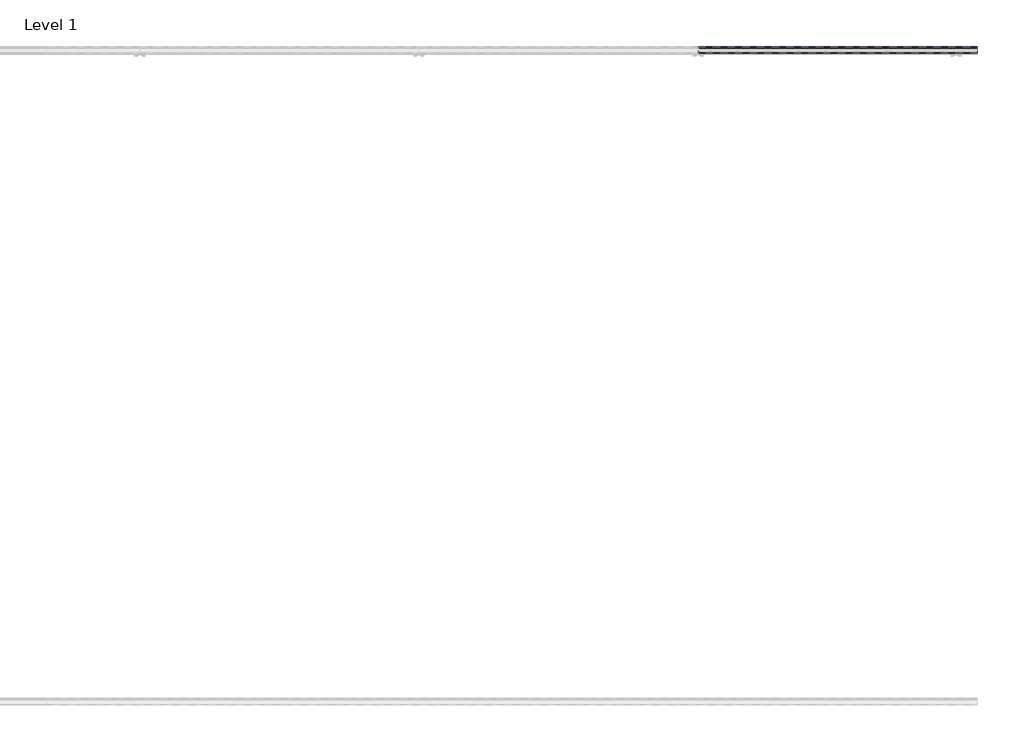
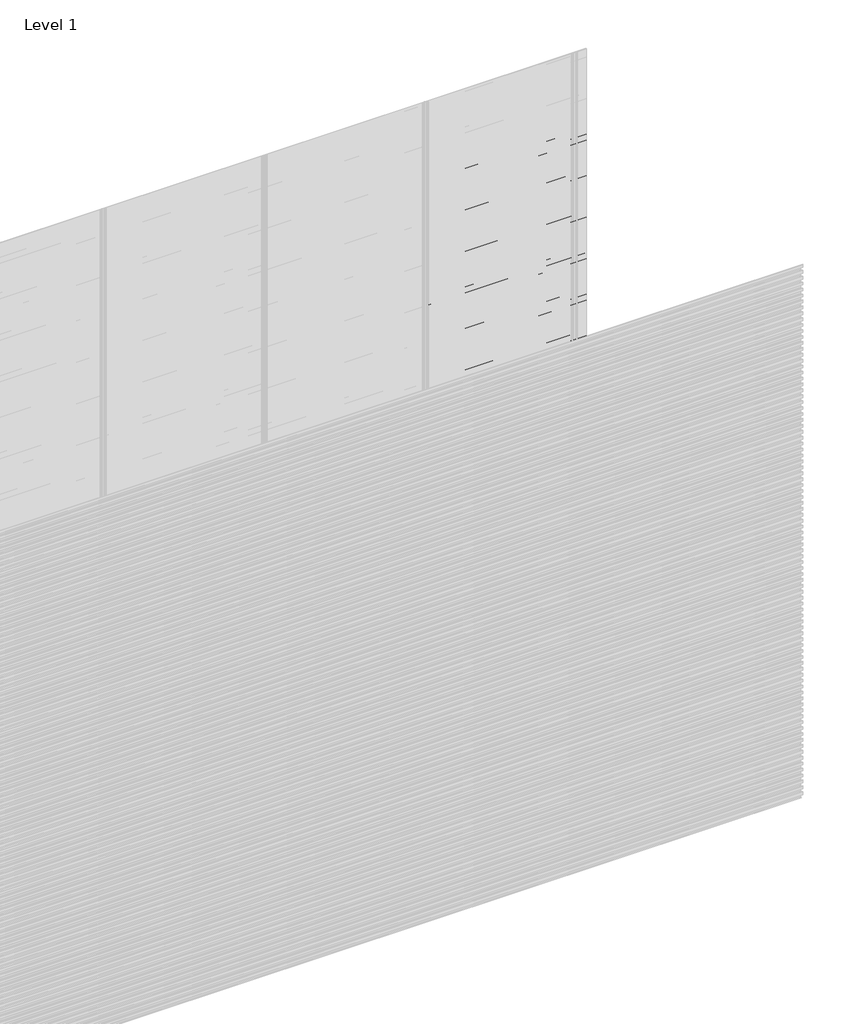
# One storey, part 96 of 96: 80 proxies.
"""IFC4 building model written with IfcOpenShell, lengths in millimetres."""

from ifc_helpers import new_model, si_unit, frame, origin, place, context, project, spatial, polyline, outline, extrude, element, save

model = new_model("IFC4")

# Units and contexts
model_context = context("Model", 3, world=origin())
ifc_project = project(units=[si_unit("LENGTHUNIT", "METRE", prefix="MILLI")], contexts=[model_context])

# Site, building, storey
site = spatial("IfcSite", under=ifc_project)
building = spatial("IfcBuilding", under=site)
storey = spatial("IfcBuildingStorey", under=building, Name="Level 1", Elevation=0.0)

# Proxies
placement = place(None, origin())
element("IfcBuildingElementProxy", 1, Name="Wall Sweeps", at=placement, inside=storey, context=model_context, shape_type="SweptSolid", body=[
    extrude(outline(polyline([(22.4, 2638.7655033), (22.4, 2624.4779188), (17.5885035, 2621.7), (17.5885035, 2622.9701706), (21.15, 2625.0264016), (21.15, 2638.0437382), (2.0, 2649.1000799), (2.0, 2664.0), (3.25, 2664.0), (3.25, 2649.8217609), (22.4, 2638.7655033)])), frame((5142.8571429, 0.0, 0.0), z_axis=(1.0, 0.0, 0.0), x_axis=(0.0, 1.0, 0.0)), (0.0, 0.0, 1.0), 857.1428571),
])
element("IfcBuildingElementProxy", 2, Name="Wall Sweeps", at=placement, inside=storey, context=model_context, shape_type="SweptSolid", body=[
    extrude(outline(polyline([(22.4, 2605.4655033), (22.4, 2591.1779188), (17.5885035, 2588.4), (17.5885035, 2589.6701706), (21.15, 2591.7264016), (21.15, 2604.7437382), (2.0, 2615.8000799), (2.0, 2630.7), (3.25, 2630.7), (3.25, 2616.5217609), (22.4, 2605.4655033)])), frame((5142.8571429, 0.0, 0.0), z_axis=(1.0, 0.0, 0.0), x_axis=(0.0, 1.0, 0.0)), (0.0, 0.0, 1.0), 857.1428571),
])
element("IfcBuildingElementProxy", 3, Name="Wall Sweeps", at=placement, inside=storey, context=model_context, shape_type="SweptSolid", body=[
    extrude(outline(polyline([(22.4, 2572.1655033), (22.4, 2557.8779188), (17.5885035, 2555.1), (17.5885035, 2556.3701706), (21.15, 2558.4264016), (21.15, 2571.4437382), (2.0, 2582.5000799), (2.0, 2597.4), (3.25, 2597.4), (3.25, 2583.2217609), (22.4, 2572.1655033)])), frame((5142.8571429, 0.0, 0.0), z_axis=(1.0, 0.0, 0.0), x_axis=(0.0, 1.0, 0.0)), (0.0, 0.0, 1.0), 857.1428571),
])
element("IfcBuildingElementProxy", 4, Name="Wall Sweeps", at=placement, inside=storey, context=model_context, shape_type="SweptSolid", body=[
    extrude(outline(polyline([(22.4, 2538.8655033), (22.4, 2524.5779188), (17.5885035, 2521.8), (17.5885035, 2523.0701706), (21.15, 2525.1264016), (21.15, 2538.1437382), (2.0, 2549.2000799), (2.0, 2564.1), (3.25, 2564.1), (3.25, 2549.9217609), (22.4, 2538.8655033)])), frame((5142.8571429, 0.0, 0.0), z_axis=(1.0, 0.0, 0.0), x_axis=(0.0, 1.0, 0.0)), (0.0, 0.0, 1.0), 857.1428571),
])
element("IfcBuildingElementProxy", 5, Name="Wall Sweeps", at=placement, inside=storey, context=model_context, shape_type="SweptSolid", body=[
    extrude(outline(polyline([(22.4, 2505.5655033), (22.4, 2491.2779188), (17.5885035, 2488.5), (17.5885035, 2489.7701706), (21.15, 2491.8264016), (21.15, 2504.8437382), (2.0, 2515.9000799), (2.0, 2530.8), (3.25, 2530.8), (3.25, 2516.6217609), (22.4, 2505.5655033)])), frame((5142.8571429, 0.0, 0.0), z_axis=(1.0, 0.0, 0.0), x_axis=(0.0, 1.0, 0.0)), (0.0, 0.0, 1.0), 857.1428571),
])
element("IfcBuildingElementProxy", 6, Name="Wall Sweeps", at=placement, inside=storey, context=model_context, shape_type="SweptSolid", body=[
    extrude(outline(polyline([(22.4, 2472.2655033), (22.4, 2457.9779188), (17.5885035, 2455.2), (17.5885035, 2456.4701706), (21.15, 2458.5264016), (21.15, 2471.5437382), (2.0, 2482.6000799), (2.0, 2497.5), (3.25, 2497.5), (3.25, 2483.3217609), (22.4, 2472.2655033)])), frame((5142.8571429, 0.0, 0.0), z_axis=(1.0, 0.0, 0.0), x_axis=(0.0, 1.0, 0.0)), (0.0, 0.0, 1.0), 857.1428571),
])
element("IfcBuildingElementProxy", 7, Name="Wall Sweeps", at=placement, inside=storey, context=model_context, shape_type="SweptSolid", body=[
    extrude(outline(polyline([(22.4, 2438.9655033), (22.4, 2424.6779188), (17.5885035, 2421.9), (17.5885035, 2423.1701706), (21.15, 2425.2264016), (21.15, 2438.2437382), (2.0, 2449.3000799), (2.0, 2464.2), (3.25, 2464.2), (3.25, 2450.0217609), (22.4, 2438.9655033)])), frame((5142.8571429, 0.0, 0.0), z_axis=(1.0, 0.0, 0.0), x_axis=(0.0, 1.0, 0.0)), (0.0, 0.0, 1.0), 857.1428571),
])
element("IfcBuildingElementProxy", 8, Name="Wall Sweeps", at=placement, inside=storey, context=model_context, shape_type="SweptSolid", body=[
    extrude(outline(polyline([(22.4, 2405.6655033), (22.4, 2391.3779188), (17.5885035, 2388.6), (17.5885035, 2389.8701706), (21.15, 2391.9264016), (21.15, 2404.9437382), (2.0, 2416.0000799), (2.0, 2430.9), (3.25, 2430.9), (3.25, 2416.7217609), (22.4, 2405.6655033)])), frame((5142.8571429, 0.0, 0.0), z_axis=(1.0, 0.0, 0.0), x_axis=(0.0, 1.0, 0.0)), (0.0, 0.0, 1.0), 857.1428571),
])
element("IfcBuildingElementProxy", 9, Name="Wall Sweeps", at=placement, inside=storey, context=model_context, shape_type="SweptSolid", body=[
    extrude(outline(polyline([(22.4, 2372.3655033), (22.4, 2358.0779188), (17.5885035, 2355.3), (17.5885035, 2356.5701706), (21.15, 2358.6264016), (21.15, 2371.6437382), (2.0, 2382.7000799), (2.0, 2397.6), (3.25, 2397.6), (3.25, 2383.4217609), (22.4, 2372.3655033)])), frame((5142.8571429, 0.0, 0.0), z_axis=(1.0, 0.0, 0.0), x_axis=(0.0, 1.0, 0.0)), (0.0, 0.0, 1.0), 857.1428571),
])
element("IfcBuildingElementProxy", 10, Name="Wall Sweeps", at=placement, inside=storey, context=model_context, shape_type="SweptSolid", body=[
    extrude(outline(polyline([(22.4, 2339.0655033), (22.4, 2324.7779188), (17.5885035, 2322.0), (17.5885035, 2323.2701706), (21.15, 2325.3264016), (21.15, 2338.3437382), (2.0, 2349.4000799), (2.0, 2364.3), (3.25, 2364.3), (3.25, 2350.1217609), (22.4, 2339.0655033)])), frame((5142.8571429, 0.0, 0.0), z_axis=(1.0, 0.0, 0.0), x_axis=(0.0, 1.0, 0.0)), (0.0, 0.0, 1.0), 857.1428571),
])
element("IfcBuildingElementProxy", 11, Name="Wall Sweeps", at=placement, inside=storey, context=model_context, shape_type="SweptSolid", body=[
    extrude(outline(polyline([(22.4, 2305.7655033), (22.4, 2291.4779188), (17.5885035, 2288.7), (17.5885035, 2289.9701706), (21.15, 2292.0264016), (21.15, 2305.0437382), (2.0, 2316.1000799), (2.0, 2331.0), (3.25, 2331.0), (3.25, 2316.8217609), (22.4, 2305.7655033)])), frame((5142.8571429, 0.0, 0.0), z_axis=(1.0, 0.0, 0.0), x_axis=(0.0, 1.0, 0.0)), (0.0, 0.0, 1.0), 857.1428571),
])
element("IfcBuildingElementProxy", 12, Name="Wall Sweeps", at=placement, inside=storey, context=model_context, shape_type="SweptSolid", body=[
    extrude(outline(polyline([(22.4, 2272.4655033), (22.4, 2258.1779188), (17.5885035, 2255.4), (17.5885035, 2256.6701706), (21.15, 2258.7264016), (21.15, 2271.7437382), (2.0, 2282.8000799), (2.0, 2297.7), (3.25, 2297.7), (3.25, 2283.5217609), (22.4, 2272.4655033)])), frame((5142.8571429, 0.0, 0.0), z_axis=(1.0, 0.0, 0.0), x_axis=(0.0, 1.0, 0.0)), (0.0, 0.0, 1.0), 857.1428571),
])
element("IfcBuildingElementProxy", 13, Name="Wall Sweeps", at=placement, inside=storey, context=model_context, shape_type="SweptSolid", body=[
    extrude(outline(polyline([(22.4, 2239.1655033), (22.4, 2224.8779188), (17.5885035, 2222.1), (17.5885035, 2223.3701706), (21.15, 2225.4264016), (21.15, 2238.4437382), (2.0, 2249.5000799), (2.0, 2264.4), (3.25, 2264.4), (3.25, 2250.2217609), (22.4, 2239.1655033)])), frame((5142.8571429, 0.0, 0.0), z_axis=(1.0, 0.0, 0.0), x_axis=(0.0, 1.0, 0.0)), (0.0, 0.0, 1.0), 857.1428571),
])
element("IfcBuildingElementProxy", 14, Name="Wall Sweeps", at=placement, inside=storey, context=model_context, shape_type="SweptSolid", body=[
    extrude(outline(polyline([(22.4, 2205.8655033), (22.4, 2191.5779188), (17.5885035, 2188.8), (17.5885035, 2190.0701706), (21.15, 2192.1264016), (21.15, 2205.1437382), (2.0, 2216.2000799), (2.0, 2231.1), (3.25, 2231.1), (3.25, 2216.9217609), (22.4, 2205.8655033)])), frame((5142.8571429, 0.0, 0.0), z_axis=(1.0, 0.0, 0.0), x_axis=(0.0, 1.0, 0.0)), (0.0, 0.0, 1.0), 857.1428571),
])
element("IfcBuildingElementProxy", 15, Name="Wall Sweeps", at=placement, inside=storey, context=model_context, shape_type="SweptSolid", body=[
    extrude(outline(polyline([(22.4, 2172.5655033), (22.4, 2158.2779188), (17.5885035, 2155.5), (17.5885035, 2156.7701706), (21.15, 2158.8264016), (21.15, 2171.8437382), (2.0, 2182.9000799), (2.0, 2197.8), (3.25, 2197.8), (3.25, 2183.6217609), (22.4, 2172.5655033)])), frame((5142.8571429, 0.0, 0.0), z_axis=(1.0, 0.0, 0.0), x_axis=(0.0, 1.0, 0.0)), (0.0, 0.0, 1.0), 857.1428571),
])
element("IfcBuildingElementProxy", 16, Name="Wall Sweeps", at=placement, inside=storey, context=model_context, shape_type="SweptSolid", body=[
    extrude(outline(polyline([(22.4, 2139.2655033), (22.4, 2124.9779188), (17.5885035, 2122.2), (17.5885035, 2123.4701706), (21.15, 2125.5264016), (21.15, 2138.5437382), (2.0, 2149.6000799), (2.0, 2164.5), (3.25, 2164.5), (3.25, 2150.3217609), (22.4, 2139.2655033)])), frame((5142.8571429, 0.0, 0.0), z_axis=(1.0, 0.0, 0.0), x_axis=(0.0, 1.0, 0.0)), (0.0, 0.0, 1.0), 857.1428571),
])
element("IfcBuildingElementProxy", 17, Name="Wall Sweeps", at=placement, inside=storey, context=model_context, shape_type="SweptSolid", body=[
    extrude(outline(polyline([(22.4, 2105.9655033), (22.4, 2091.6779188), (17.5885035, 2088.9), (17.5885035, 2090.1701706), (21.15, 2092.2264016), (21.15, 2105.2437382), (2.0, 2116.3000799), (2.0, 2131.2), (3.25, 2131.2), (3.25, 2117.0217609), (22.4, 2105.9655033)])), frame((5142.8571429, 0.0, 0.0), z_axis=(1.0, 0.0, 0.0), x_axis=(0.0, 1.0, 0.0)), (0.0, 0.0, 1.0), 857.1428571),
])
element("IfcBuildingElementProxy", 18, Name="Wall Sweeps", at=placement, inside=storey, context=model_context, shape_type="SweptSolid", body=[
    extrude(outline(polyline([(22.4, 2072.6655033), (22.4, 2058.3779188), (17.5885035, 2055.6), (17.5885035, 2056.8701706), (21.15, 2058.9264016), (21.15, 2071.9437382), (2.0, 2083.0000799), (2.0, 2097.9), (3.25, 2097.9), (3.25, 2083.7217609), (22.4, 2072.6655033)])), frame((5142.8571429, 0.0, 0.0), z_axis=(1.0, 0.0, 0.0), x_axis=(0.0, 1.0, 0.0)), (0.0, 0.0, 1.0), 857.1428571),
])
element("IfcBuildingElementProxy", 19, Name="Wall Sweeps", at=placement, inside=storey, context=model_context, shape_type="SweptSolid", body=[
    extrude(outline(polyline([(22.4, 2039.3655033), (22.4, 2025.0779188), (17.5885035, 2022.3), (17.5885035, 2023.5701706), (21.15, 2025.6264016), (21.15, 2038.6437382), (2.0, 2049.7000799), (2.0, 2064.6), (3.25, 2064.6), (3.25, 2050.4217609), (22.4, 2039.3655033)])), frame((5142.8571429, 0.0, 0.0), z_axis=(1.0, 0.0, 0.0), x_axis=(0.0, 1.0, 0.0)), (0.0, 0.0, 1.0), 857.1428571),
])
element("IfcBuildingElementProxy", 20, Name="Wall Sweeps", at=placement, inside=storey, context=model_context, shape_type="SweptSolid", body=[
    extrude(outline(polyline([(22.4, 2006.0655033), (22.4, 1991.7779188), (17.5885035, 1989.0), (17.5885035, 1990.2701706), (21.15, 1992.3264016), (21.15, 2005.3437382), (2.0, 2016.4000799), (2.0, 2031.3), (3.25, 2031.3), (3.25, 2017.1217609), (22.4, 2006.0655033)])), frame((5142.8571429, 0.0, 0.0), z_axis=(1.0, 0.0, 0.0), x_axis=(0.0, 1.0, 0.0)), (0.0, 0.0, 1.0), 857.1428571),
])
element("IfcBuildingElementProxy", 21, Name="Wall Sweeps", at=placement, inside=storey, context=model_context, shape_type="SweptSolid", body=[
    extrude(outline(polyline([(22.4, 1972.7655033), (22.4, 1958.4779188), (17.5885035, 1955.7), (17.5885035, 1956.9701706), (21.15, 1959.0264016), (21.15, 1972.0437382), (2.0, 1983.1000799), (2.0, 1998.0), (3.25, 1998.0), (3.25, 1983.8217609), (22.4, 1972.7655033)])), frame((5142.8571429, 0.0, 0.0), z_axis=(1.0, 0.0, 0.0), x_axis=(0.0, 1.0, 0.0)), (0.0, 0.0, 1.0), 857.1428571),
])
element("IfcBuildingElementProxy", 22, Name="Wall Sweeps", at=placement, inside=storey, context=model_context, shape_type="SweptSolid", body=[
    extrude(outline(polyline([(22.4, 1939.4655033), (22.4, 1925.1779188), (17.5885035, 1922.4), (17.5885035, 1923.6701706), (21.15, 1925.7264016), (21.15, 1938.7437382), (2.0, 1949.8000799), (2.0, 1964.7), (3.25, 1964.7), (3.25, 1950.5217609), (22.4, 1939.4655033)])), frame((5142.8571429, 0.0, 0.0), z_axis=(1.0, 0.0, 0.0), x_axis=(0.0, 1.0, 0.0)), (0.0, 0.0, 1.0), 857.1428571),
])
element("IfcBuildingElementProxy", 23, Name="Wall Sweeps", at=placement, inside=storey, context=model_context, shape_type="SweptSolid", body=[
    extrude(outline(polyline([(22.4, 1906.1655033), (22.4, 1891.8779188), (17.5885035, 1889.1), (17.5885035, 1890.3701706), (21.15, 1892.4264016), (21.15, 1905.4437382), (2.0, 1916.5000799), (2.0, 1931.4), (3.25, 1931.4), (3.25, 1917.2217609), (22.4, 1906.1655033)])), frame((5142.8571429, 0.0, 0.0), z_axis=(1.0, 0.0, 0.0), x_axis=(0.0, 1.0, 0.0)), (0.0, 0.0, 1.0), 857.1428571),
])
element("IfcBuildingElementProxy", 24, Name="Wall Sweeps", at=placement, inside=storey, context=model_context, shape_type="SweptSolid", body=[
    extrude(outline(polyline([(22.4, 1872.8655033), (22.4, 1858.5779188), (17.5885035, 1855.8), (17.5885035, 1857.0701706), (21.15, 1859.1264016), (21.15, 1872.1437382), (2.0, 1883.2000799), (2.0, 1898.1), (3.25, 1898.1), (3.25, 1883.9217609), (22.4, 1872.8655033)])), frame((5142.8571429, 0.0, 0.0), z_axis=(1.0, 0.0, 0.0), x_axis=(0.0, 1.0, 0.0)), (0.0, 0.0, 1.0), 857.1428571),
])
element("IfcBuildingElementProxy", 25, Name="Wall Sweeps", at=placement, inside=storey, context=model_context, shape_type="SweptSolid", body=[
    extrude(outline(polyline([(22.4, 1839.5655033), (22.4, 1825.2779188), (17.5885035, 1822.5), (17.5885035, 1823.7701706), (21.15, 1825.8264016), (21.15, 1838.8437382), (2.0, 1849.9000799), (2.0, 1864.8), (3.25, 1864.8), (3.25, 1850.6217609), (22.4, 1839.5655033)])), frame((5142.8571429, 0.0, 0.0), z_axis=(1.0, 0.0, 0.0), x_axis=(0.0, 1.0, 0.0)), (0.0, 0.0, 1.0), 857.1428571),
])
element("IfcBuildingElementProxy", 26, Name="Wall Sweeps", at=placement, inside=storey, context=model_context, shape_type="SweptSolid", body=[
    extrude(outline(polyline([(22.4, 1806.2655033), (22.4, 1791.9779188), (17.5885035, 1789.2), (17.5885035, 1790.4701706), (21.15, 1792.5264016), (21.15, 1805.5437382), (2.0, 1816.6000799), (2.0, 1831.5), (3.25, 1831.5), (3.25, 1817.3217609), (22.4, 1806.2655033)])), frame((5142.8571429, 0.0, 0.0), z_axis=(1.0, 0.0, 0.0), x_axis=(0.0, 1.0, 0.0)), (0.0, 0.0, 1.0), 857.1428571),
])
element("IfcBuildingElementProxy", 27, Name="Wall Sweeps", at=placement, inside=storey, context=model_context, shape_type="SweptSolid", body=[
    extrude(outline(polyline([(22.4, 1772.9655033), (22.4, 1758.6779188), (17.5885035, 1755.9), (17.5885035, 1757.1701706), (21.15, 1759.2264016), (21.15, 1772.2437382), (2.0, 1783.3000799), (2.0, 1798.2), (3.25, 1798.2), (3.25, 1784.0217609), (22.4, 1772.9655033)])), frame((5142.8571429, 0.0, 0.0), z_axis=(1.0, 0.0, 0.0), x_axis=(0.0, 1.0, 0.0)), (0.0, 0.0, 1.0), 857.1428571),
])
element("IfcBuildingElementProxy", 28, Name="Wall Sweeps", at=placement, inside=storey, context=model_context, shape_type="SweptSolid", body=[
    extrude(outline(polyline([(22.4, 1739.6655033), (22.4, 1725.3779188), (17.5885035, 1722.6), (17.5885035, 1723.8701706), (21.15, 1725.9264016), (21.15, 1738.9437382), (2.0, 1750.0000799), (2.0, 1764.9), (3.25, 1764.9), (3.25, 1750.7217609), (22.4, 1739.6655033)])), frame((5142.8571429, 0.0, 0.0), z_axis=(1.0, 0.0, 0.0), x_axis=(0.0, 1.0, 0.0)), (0.0, 0.0, 1.0), 857.1428571),
])
element("IfcBuildingElementProxy", 29, Name="Wall Sweeps", at=placement, inside=storey, context=model_context, shape_type="SweptSolid", body=[
    extrude(outline(polyline([(22.4, 1706.3655033), (22.4, 1692.0779188), (17.5885035, 1689.3), (17.5885035, 1690.5701706), (21.15, 1692.6264016), (21.15, 1705.6437382), (2.0, 1716.7000799), (2.0, 1731.6), (3.25, 1731.6), (3.25, 1717.4217609), (22.4, 1706.3655033)])), frame((5142.8571429, 0.0, 0.0), z_axis=(1.0, 0.0, 0.0), x_axis=(0.0, 1.0, 0.0)), (0.0, 0.0, 1.0), 857.1428571),
])
element("IfcBuildingElementProxy", 30, Name="Wall Sweeps", at=placement, inside=storey, context=model_context, shape_type="SweptSolid", body=[
    extrude(outline(polyline([(22.4, 1673.0655033), (22.4, 1658.7779188), (17.5885035, 1656.0), (17.5885035, 1657.2701706), (21.15, 1659.3264016), (21.15, 1672.3437382), (2.0, 1683.4000799), (2.0, 1698.3), (3.25, 1698.3), (3.25, 1684.1217609), (22.4, 1673.0655033)])), frame((5142.8571429, 0.0, 0.0), z_axis=(1.0, 0.0, 0.0), x_axis=(0.0, 1.0, 0.0)), (0.0, 0.0, 1.0), 857.1428571),
])
element("IfcBuildingElementProxy", 31, Name="Wall Sweeps", at=placement, inside=storey, context=model_context, shape_type="SweptSolid", body=[
    extrude(outline(polyline([(22.4, 1639.7655033), (22.4, 1625.4779188), (17.5885035, 1622.7), (17.5885035, 1623.9701706), (21.15, 1626.0264016), (21.15, 1639.0437382), (2.0, 1650.1000799), (2.0, 1665.0), (3.25, 1665.0), (3.25, 1650.8217609), (22.4, 1639.7655033)])), frame((5142.8571429, 0.0, 0.0), z_axis=(1.0, 0.0, 0.0), x_axis=(0.0, 1.0, 0.0)), (0.0, 0.0, 1.0), 857.1428571),
])
element("IfcBuildingElementProxy", 32, Name="Wall Sweeps", at=placement, inside=storey, context=model_context, shape_type="SweptSolid", body=[
    extrude(outline(polyline([(22.4, 1606.4655033), (22.4, 1592.1779188), (17.5885035, 1589.4), (17.5885035, 1590.6701706), (21.15, 1592.7264016), (21.15, 1605.7437382), (2.0, 1616.8000799), (2.0, 1631.7), (3.25, 1631.7), (3.25, 1617.5217609), (22.4, 1606.4655033)])), frame((5142.8571429, 0.0, 0.0), z_axis=(1.0, 0.0, 0.0), x_axis=(0.0, 1.0, 0.0)), (0.0, 0.0, 1.0), 857.1428571),
])
element("IfcBuildingElementProxy", 33, Name="Wall Sweeps", at=placement, inside=storey, context=model_context, shape_type="SweptSolid", body=[
    extrude(outline(polyline([(22.4, 1573.1655033), (22.4, 1558.8779188), (17.5885035, 1556.1), (17.5885035, 1557.3701706), (21.15, 1559.4264016), (21.15, 1572.4437382), (2.0, 1583.5000799), (2.0, 1598.4), (3.25, 1598.4), (3.25, 1584.2217609), (22.4, 1573.1655033)])), frame((5142.8571429, 0.0, 0.0), z_axis=(1.0, 0.0, 0.0), x_axis=(0.0, 1.0, 0.0)), (0.0, 0.0, 1.0), 857.1428571),
])
element("IfcBuildingElementProxy", 34, Name="Wall Sweeps", at=placement, inside=storey, context=model_context, shape_type="SweptSolid", body=[
    extrude(outline(polyline([(22.4, 1539.8655033), (22.4, 1525.5779188), (17.5885035, 1522.8), (17.5885035, 1524.0701706), (21.15, 1526.1264016), (21.15, 1539.1437382), (2.0, 1550.2000799), (2.0, 1565.1), (3.25, 1565.1), (3.25, 1550.9217609), (22.4, 1539.8655033)])), frame((5142.8571429, 0.0, 0.0), z_axis=(1.0, 0.0, 0.0), x_axis=(0.0, 1.0, 0.0)), (0.0, 0.0, 1.0), 857.1428571),
])
element("IfcBuildingElementProxy", 35, Name="Wall Sweeps", at=placement, inside=storey, context=model_context, shape_type="SweptSolid", body=[
    extrude(outline(polyline([(22.4, 1506.5655033), (22.4, 1492.2779188), (17.5885035, 1489.5), (17.5885035, 1490.7701706), (21.15, 1492.8264016), (21.15, 1505.8437382), (2.0, 1516.9000799), (2.0, 1531.8), (3.25, 1531.8), (3.25, 1517.6217609), (22.4, 1506.5655033)])), frame((5142.8571429, 0.0, 0.0), z_axis=(1.0, 0.0, 0.0), x_axis=(0.0, 1.0, 0.0)), (0.0, 0.0, 1.0), 857.1428571),
])
element("IfcBuildingElementProxy", 36, Name="Wall Sweeps", at=placement, inside=storey, context=model_context, shape_type="SweptSolid", body=[
    extrude(outline(polyline([(22.4, 1473.2655033), (22.4, 1458.9779188), (17.5885035, 1456.2), (17.5885035, 1457.4701706), (21.15, 1459.5264016), (21.15, 1472.5437382), (2.0, 1483.6000799), (2.0, 1498.5), (3.25, 1498.5), (3.25, 1484.3217609), (22.4, 1473.2655033)])), frame((5142.8571429, 0.0, 0.0), z_axis=(1.0, 0.0, 0.0), x_axis=(0.0, 1.0, 0.0)), (0.0, 0.0, 1.0), 857.1428571),
])
element("IfcBuildingElementProxy", 37, Name="Wall Sweeps", at=placement, inside=storey, context=model_context, shape_type="SweptSolid", body=[
    extrude(outline(polyline([(22.4, 1439.9655033), (22.4, 1425.6779188), (17.5885035, 1422.9), (17.5885035, 1424.1701706), (21.15, 1426.2264016), (21.15, 1439.2437382), (2.0, 1450.3000799), (2.0, 1465.2), (3.25, 1465.2), (3.25, 1451.0217609), (22.4, 1439.9655033)])), frame((5142.8571429, 0.0, 0.0), z_axis=(1.0, 0.0, 0.0), x_axis=(0.0, 1.0, 0.0)), (0.0, 0.0, 1.0), 857.1428571),
])
element("IfcBuildingElementProxy", 38, Name="Wall Sweeps", at=placement, inside=storey, context=model_context, shape_type="SweptSolid", body=[
    extrude(outline(polyline([(22.4, 1406.6655033), (22.4, 1392.3779188), (17.5885035, 1389.6), (17.5885035, 1390.8701706), (21.15, 1392.9264016), (21.15, 1405.9437382), (2.0, 1417.0000799), (2.0, 1431.9), (3.25, 1431.9), (3.25, 1417.7217609), (22.4, 1406.6655033)])), frame((5142.8571429, 0.0, 0.0), z_axis=(1.0, 0.0, 0.0), x_axis=(0.0, 1.0, 0.0)), (0.0, 0.0, 1.0), 857.1428571),
])
element("IfcBuildingElementProxy", 39, Name="Wall Sweeps", at=placement, inside=storey, context=model_context, shape_type="SweptSolid", body=[
    extrude(outline(polyline([(22.4, 1373.3655033), (22.4, 1359.0779188), (17.5885035, 1356.3), (17.5885035, 1357.5701706), (21.15, 1359.6264016), (21.15, 1372.6437382), (2.0, 1383.7000799), (2.0, 1398.6), (3.25, 1398.6), (3.25, 1384.4217609), (22.4, 1373.3655033)])), frame((5142.8571429, 0.0, 0.0), z_axis=(1.0, 0.0, 0.0), x_axis=(0.0, 1.0, 0.0)), (0.0, 0.0, 1.0), 857.1428571),
])
element("IfcBuildingElementProxy", 40, Name="Wall Sweeps", at=placement, inside=storey, context=model_context, shape_type="SweptSolid", body=[
    extrude(outline(polyline([(22.4, 1340.0655033), (22.4, 1325.7779188), (17.5885035, 1323.0), (17.5885035, 1324.2701706), (21.15, 1326.3264016), (21.15, 1339.3437382), (2.0, 1350.4000799), (2.0, 1365.3), (3.25, 1365.3), (3.25, 1351.1217609), (22.4, 1340.0655033)])), frame((5142.8571429, 0.0, 0.0), z_axis=(1.0, 0.0, 0.0), x_axis=(0.0, 1.0, 0.0)), (0.0, 0.0, 1.0), 857.1428571),
])
element("IfcBuildingElementProxy", 41, Name="Wall Sweeps", at=placement, inside=storey, context=model_context, shape_type="SweptSolid", body=[
    extrude(outline(polyline([(22.4, 1306.7655033), (22.4, 1292.4779188), (17.5885035, 1289.7), (17.5885035, 1290.9701706), (21.15, 1293.0264016), (21.15, 1306.0437382), (2.0, 1317.1000799), (2.0, 1332.0), (3.25, 1332.0), (3.25, 1317.8217609), (22.4, 1306.7655033)])), frame((5142.8571429, 0.0, 0.0), z_axis=(1.0, 0.0, 0.0), x_axis=(0.0, 1.0, 0.0)), (0.0, 0.0, 1.0), 857.1428571),
])
element("IfcBuildingElementProxy", 42, Name="Wall Sweeps", at=placement, inside=storey, context=model_context, shape_type="SweptSolid", body=[
    extrude(outline(polyline([(22.4, 1273.4655033), (22.4, 1259.1779188), (17.5885035, 1256.4), (17.5885035, 1257.6701706), (21.15, 1259.7264016), (21.15, 1272.7437382), (2.0, 1283.8000799), (2.0, 1298.7), (3.25, 1298.7), (3.25, 1284.5217609), (22.4, 1273.4655033)])), frame((5142.8571429, 0.0, 0.0), z_axis=(1.0, 0.0, 0.0), x_axis=(0.0, 1.0, 0.0)), (0.0, 0.0, 1.0), 857.1428571),
])
element("IfcBuildingElementProxy", 43, Name="Wall Sweeps", at=placement, inside=storey, context=model_context, shape_type="SweptSolid", body=[
    extrude(outline(polyline([(22.4, 1240.1655033), (22.4, 1225.8779188), (17.5885035, 1223.1), (17.5885035, 1224.3701706), (21.15, 1226.4264016), (21.15, 1239.4437382), (2.0, 1250.5000799), (2.0, 1265.4), (3.25, 1265.4), (3.25, 1251.2217609), (22.4, 1240.1655033)])), frame((5142.8571429, 0.0, 0.0), z_axis=(1.0, 0.0, 0.0), x_axis=(0.0, 1.0, 0.0)), (0.0, 0.0, 1.0), 857.1428571),
])
element("IfcBuildingElementProxy", 44, Name="Wall Sweeps", at=placement, inside=storey, context=model_context, shape_type="SweptSolid", body=[
    extrude(outline(polyline([(22.4, 1206.8655033), (22.4, 1192.5779188), (17.5885035, 1189.8), (17.5885035, 1191.0701706), (21.15, 1193.1264016), (21.15, 1206.1437382), (2.0, 1217.2000799), (2.0, 1232.1), (3.25, 1232.1), (3.25, 1217.9217609), (22.4, 1206.8655033)])), frame((5142.8571429, 0.0, 0.0), z_axis=(1.0, 0.0, 0.0), x_axis=(0.0, 1.0, 0.0)), (0.0, 0.0, 1.0), 857.1428571),
])
element("IfcBuildingElementProxy", 45, Name="Wall Sweeps", at=placement, inside=storey, context=model_context, shape_type="SweptSolid", body=[
    extrude(outline(polyline([(22.4, 1173.5655033), (22.4, 1159.2779188), (17.5885035, 1156.5), (17.5885035, 1157.7701706), (21.15, 1159.8264016), (21.15, 1172.8437382), (2.0, 1183.9000799), (2.0, 1198.8), (3.25, 1198.8), (3.25, 1184.6217609), (22.4, 1173.5655033)])), frame((5142.8571429, 0.0, 0.0), z_axis=(1.0, 0.0, 0.0), x_axis=(0.0, 1.0, 0.0)), (0.0, 0.0, 1.0), 857.1428571),
])
element("IfcBuildingElementProxy", 46, Name="Wall Sweeps", at=placement, inside=storey, context=model_context, shape_type="SweptSolid", body=[
    extrude(outline(polyline([(22.4, 1140.2655033), (22.4, 1125.9779188), (17.5885035, 1123.2), (17.5885035, 1124.4701706), (21.15, 1126.5264016), (21.15, 1139.5437382), (2.0, 1150.6000799), (2.0, 1165.5), (3.25, 1165.5), (3.25, 1151.3217609), (22.4, 1140.2655033)])), frame((5142.8571429, 0.0, 0.0), z_axis=(1.0, 0.0, 0.0), x_axis=(0.0, 1.0, 0.0)), (0.0, 0.0, 1.0), 857.1428571),
])
element("IfcBuildingElementProxy", 47, Name="Wall Sweeps", at=placement, inside=storey, context=model_context, shape_type="SweptSolid", body=[
    extrude(outline(polyline([(22.4, 1106.9655033), (22.4, 1092.6779188), (17.5885035, 1089.9), (17.5885035, 1091.1701706), (21.15, 1093.2264016), (21.15, 1106.2437382), (2.0, 1117.3000799), (2.0, 1132.2), (3.25, 1132.2), (3.25, 1118.0217609), (22.4, 1106.9655033)])), frame((5142.8571429, 0.0, 0.0), z_axis=(1.0, 0.0, 0.0), x_axis=(0.0, 1.0, 0.0)), (0.0, 0.0, 1.0), 857.1428571),
])
element("IfcBuildingElementProxy", 48, Name="Wall Sweeps", at=placement, inside=storey, context=model_context, shape_type="SweptSolid", body=[
    extrude(outline(polyline([(22.4, 1073.6655033), (22.4, 1059.3779188), (17.5885035, 1056.6), (17.5885035, 1057.8701706), (21.15, 1059.9264016), (21.15, 1072.9437382), (2.0, 1084.0000799), (2.0, 1098.9), (3.25, 1098.9), (3.25, 1084.7217609), (22.4, 1073.6655033)])), frame((5142.8571429, 0.0, 0.0), z_axis=(1.0, 0.0, 0.0), x_axis=(0.0, 1.0, 0.0)), (0.0, 0.0, 1.0), 857.1428571),
])
element("IfcBuildingElementProxy", 49, Name="Wall Sweeps", at=placement, inside=storey, context=model_context, shape_type="SweptSolid", body=[
    extrude(outline(polyline([(22.4, 1040.3655033), (22.4, 1026.0779188), (17.5885035, 1023.3), (17.5885035, 1024.5701706), (21.15, 1026.6264016), (21.15, 1039.6437382), (2.0, 1050.7000799), (2.0, 1065.6), (3.25, 1065.6), (3.25, 1051.4217609), (22.4, 1040.3655033)])), frame((5142.8571429, 0.0, 0.0), z_axis=(1.0, 0.0, 0.0), x_axis=(0.0, 1.0, 0.0)), (0.0, 0.0, 1.0), 857.1428571),
])
element("IfcBuildingElementProxy", 50, Name="Wall Sweeps", at=placement, inside=storey, context=model_context, shape_type="SweptSolid", body=[
    extrude(outline(polyline([(22.4, 1007.0655033), (22.4, 992.7779188), (17.5885035, 990.0), (17.5885035, 991.2701706), (21.15, 993.3264016), (21.15, 1006.3437382), (2.0, 1017.4000799), (2.0, 1032.3), (3.25, 1032.3), (3.25, 1018.1217609), (22.4, 1007.0655033)])), frame((5142.8571429, 0.0, 0.0), z_axis=(1.0, 0.0, 0.0), x_axis=(0.0, 1.0, 0.0)), (0.0, 0.0, 1.0), 857.1428571),
])
element("IfcBuildingElementProxy", 51, Name="Wall Sweeps", at=placement, inside=storey, context=model_context, shape_type="SweptSolid", body=[
    extrude(outline(polyline([(22.4, 973.7655033), (22.4, 959.4779188), (17.5885035, 956.7), (17.5885035, 957.9701706), (21.15, 960.0264016), (21.15, 973.0437382), (2.0, 984.1000799), (2.0, 999.0), (3.25, 999.0), (3.25, 984.8217609), (22.4, 973.7655033)])), frame((5142.8571429, 0.0, 0.0), z_axis=(1.0, 0.0, 0.0), x_axis=(0.0, 1.0, 0.0)), (0.0, 0.0, 1.0), 857.1428571),
])
element("IfcBuildingElementProxy", 52, Name="Wall Sweeps", at=placement, inside=storey, context=model_context, shape_type="SweptSolid", body=[
    extrude(outline(polyline([(22.4, 940.4655033), (22.4, 926.1779188), (17.5885035, 923.4), (17.5885035, 924.6701706), (21.15, 926.7264016), (21.15, 939.7437382), (2.0, 950.8000799), (2.0, 965.7), (3.25, 965.7), (3.25, 951.5217609), (22.4, 940.4655033)])), frame((5142.8571429, 0.0, 0.0), z_axis=(1.0, 0.0, 0.0), x_axis=(0.0, 1.0, 0.0)), (0.0, 0.0, 1.0), 857.1428571),
])
element("IfcBuildingElementProxy", 53, Name="Wall Sweeps", at=placement, inside=storey, context=model_context, shape_type="SweptSolid", body=[
    extrude(outline(polyline([(22.4, 907.1655033), (22.4, 892.8779188), (17.5885035, 890.1), (17.5885035, 891.3701706), (21.15, 893.4264016), (21.15, 906.4437382), (2.0, 917.5000799), (2.0, 932.4), (3.25, 932.4), (3.25, 918.2217609), (22.4, 907.1655033)])), frame((5142.8571429, 0.0, 0.0), z_axis=(1.0, 0.0, 0.0), x_axis=(0.0, 1.0, 0.0)), (0.0, 0.0, 1.0), 857.1428571),
])
element("IfcBuildingElementProxy", 54, Name="Wall Sweeps", at=placement, inside=storey, context=model_context, shape_type="SweptSolid", body=[
    extrude(outline(polyline([(22.4, 873.8655033), (22.4, 859.5779188), (17.5885035, 856.8), (17.5885035, 858.0701706), (21.15, 860.1264016), (21.15, 873.1437382), (2.0, 884.2000799), (2.0, 899.1), (3.25, 899.1), (3.25, 884.9217609), (22.4, 873.8655033)])), frame((5142.8571429, 0.0, 0.0), z_axis=(1.0, 0.0, 0.0), x_axis=(0.0, 1.0, 0.0)), (0.0, 0.0, 1.0), 857.1428571),
])
element("IfcBuildingElementProxy", 55, Name="Wall Sweeps", at=placement, inside=storey, context=model_context, shape_type="SweptSolid", body=[
    extrude(outline(polyline([(22.4, 840.5655033), (22.4, 826.2779188), (17.5885035, 823.5), (17.5885035, 824.7701706), (21.15, 826.8264016), (21.15, 839.8437382), (2.0, 850.9000799), (2.0, 865.8), (3.25, 865.8), (3.25, 851.6217609), (22.4, 840.5655033)])), frame((5142.8571429, 0.0, 0.0), z_axis=(1.0, 0.0, 0.0), x_axis=(0.0, 1.0, 0.0)), (0.0, 0.0, 1.0), 857.1428571),
])
element("IfcBuildingElementProxy", 56, Name="Wall Sweeps", at=placement, inside=storey, context=model_context, shape_type="SweptSolid", body=[
    extrude(outline(polyline([(22.4, 807.2655033), (22.4, 792.9779188), (17.5885035, 790.2), (17.5885035, 791.4701706), (21.15, 793.5264016), (21.15, 806.5437382), (2.0, 817.6000799), (2.0, 832.5), (3.25, 832.5), (3.25, 818.3217609), (22.4, 807.2655033)])), frame((5142.8571429, 0.0, 0.0), z_axis=(1.0, 0.0, 0.0), x_axis=(0.0, 1.0, 0.0)), (0.0, 0.0, 1.0), 857.1428571),
])
element("IfcBuildingElementProxy", 57, Name="Wall Sweeps", at=placement, inside=storey, context=model_context, shape_type="SweptSolid", body=[
    extrude(outline(polyline([(22.4, 773.9655033), (22.4, 759.6779188), (17.5885035, 756.9), (17.5885035, 758.1701706), (21.15, 760.2264016), (21.15, 773.2437382), (2.0, 784.3000799), (2.0, 799.2), (3.25, 799.2), (3.25, 785.0217609), (22.4, 773.9655033)])), frame((5142.8571429, 0.0, 0.0), z_axis=(1.0, 0.0, 0.0), x_axis=(0.0, 1.0, 0.0)), (0.0, 0.0, 1.0), 857.1428571),
])
element("IfcBuildingElementProxy", 58, Name="Wall Sweeps", at=placement, inside=storey, context=model_context, shape_type="SweptSolid", body=[
    extrude(outline(polyline([(22.4, 740.6655033), (22.4, 726.3779188), (17.5885035, 723.6), (17.5885035, 724.8701706), (21.15, 726.9264016), (21.15, 739.9437382), (2.0, 751.0000799), (2.0, 765.9), (3.25, 765.9), (3.25, 751.7217609), (22.4, 740.6655033)])), frame((5142.8571429, 0.0, 0.0), z_axis=(1.0, 0.0, 0.0), x_axis=(0.0, 1.0, 0.0)), (0.0, 0.0, 1.0), 857.1428571),
])
element("IfcBuildingElementProxy", 59, Name="Wall Sweeps", at=placement, inside=storey, context=model_context, shape_type="SweptSolid", body=[
    extrude(outline(polyline([(22.4, 707.3655033), (22.4, 693.0779188), (17.5885035, 690.3), (17.5885035, 691.5701706), (21.15, 693.6264016), (21.15, 706.6437382), (2.0, 717.7000799), (2.0, 732.6), (3.25, 732.6), (3.25, 718.4217609), (22.4, 707.3655033)])), frame((5142.8571429, 0.0, 0.0), z_axis=(1.0, 0.0, 0.0), x_axis=(0.0, 1.0, 0.0)), (0.0, 0.0, 1.0), 857.1428571),
])
element("IfcBuildingElementProxy", 60, Name="Wall Sweeps", at=placement, inside=storey, context=model_context, shape_type="SweptSolid", body=[
    extrude(outline(polyline([(22.4, 674.0655033), (22.4, 659.7779188), (17.5885035, 657.0), (17.5885035, 658.2701706), (21.15, 660.3264016), (21.15, 673.3437382), (2.0, 684.4000799), (2.0, 699.3), (3.25, 699.3), (3.25, 685.1217609), (22.4, 674.0655033)])), frame((5142.8571429, 0.0, 0.0), z_axis=(1.0, 0.0, 0.0), x_axis=(0.0, 1.0, 0.0)), (0.0, 0.0, 1.0), 857.1428571),
])
element("IfcBuildingElementProxy", 61, Name="Wall Sweeps", at=placement, inside=storey, context=model_context, shape_type="SweptSolid", body=[
    extrude(outline(polyline([(22.4, 640.7655033), (22.4, 626.4779188), (17.5885035, 623.7), (17.5885035, 624.9701706), (21.15, 627.0264016), (21.15, 640.0437382), (2.0, 651.1000799), (2.0, 666.0), (3.25, 666.0), (3.25, 651.8217609), (22.4, 640.7655033)])), frame((5142.8571429, 0.0, 0.0), z_axis=(1.0, 0.0, 0.0), x_axis=(0.0, 1.0, 0.0)), (0.0, 0.0, 1.0), 857.1428571),
])
element("IfcBuildingElementProxy", 62, Name="Wall Sweeps", at=placement, inside=storey, context=model_context, shape_type="SweptSolid", body=[
    extrude(outline(polyline([(22.4, 607.4655033), (22.4, 593.1779188), (17.5885035, 590.4), (17.5885035, 591.6701706), (21.15, 593.7264016), (21.15, 606.7437382), (2.0, 617.8000799), (2.0, 632.7), (3.25, 632.7), (3.25, 618.5217609), (22.4, 607.4655033)])), frame((5142.8571429, 0.0, 0.0), z_axis=(1.0, 0.0, 0.0), x_axis=(0.0, 1.0, 0.0)), (0.0, 0.0, 1.0), 857.1428571),
])
element("IfcBuildingElementProxy", 63, Name="Wall Sweeps", at=placement, inside=storey, context=model_context, shape_type="SweptSolid", body=[
    extrude(outline(polyline([(22.4, 574.1655033), (22.4, 559.8779188), (17.5885035, 557.1), (17.5885035, 558.3701706), (21.15, 560.4264016), (21.15, 573.4437382), (2.0, 584.5000799), (2.0, 599.4), (3.25, 599.4), (3.25, 585.2217609), (22.4, 574.1655033)])), frame((5142.8571429, 0.0, 0.0), z_axis=(1.0, 0.0, 0.0), x_axis=(0.0, 1.0, 0.0)), (0.0, 0.0, 1.0), 857.1428571),
])
element("IfcBuildingElementProxy", 64, Name="Wall Sweeps", at=placement, inside=storey, context=model_context, shape_type="SweptSolid", body=[
    extrude(outline(polyline([(22.4, 540.8655033), (22.4, 526.5779188), (17.5885035, 523.8), (17.5885035, 525.0701706), (21.15, 527.1264016), (21.15, 540.1437382), (2.0, 551.2000799), (2.0, 566.1), (3.25, 566.1), (3.25, 551.9217609), (22.4, 540.8655033)])), frame((5142.8571429, 0.0, 0.0), z_axis=(1.0, 0.0, 0.0), x_axis=(0.0, 1.0, 0.0)), (0.0, 0.0, 1.0), 857.1428571),
])
element("IfcBuildingElementProxy", 65, Name="Wall Sweeps", at=placement, inside=storey, context=model_context, shape_type="SweptSolid", body=[
    extrude(outline(polyline([(22.4, 507.5655033), (22.4, 493.2779188), (17.5885035, 490.5), (17.5885035, 491.7701706), (21.15, 493.8264016), (21.15, 506.8437382), (2.0, 517.9000799), (2.0, 532.8), (3.25, 532.8), (3.25, 518.6217609), (22.4, 507.5655033)])), frame((5142.8571429, 0.0, 0.0), z_axis=(1.0, 0.0, 0.0), x_axis=(0.0, 1.0, 0.0)), (0.0, 0.0, 1.0), 857.1428571),
])
element("IfcBuildingElementProxy", 66, Name="Wall Sweeps", at=placement, inside=storey, context=model_context, shape_type="SweptSolid", body=[
    extrude(outline(polyline([(22.4, 474.2655033), (22.4, 459.9779188), (17.5885035, 457.2), (17.5885035, 458.4701706), (21.15, 460.5264016), (21.15, 473.5437382), (2.0, 484.6000799), (2.0, 499.5), (3.25, 499.5), (3.25, 485.3217609), (22.4, 474.2655033)])), frame((5142.8571429, 0.0, 0.0), z_axis=(1.0, 0.0, 0.0), x_axis=(0.0, 1.0, 0.0)), (0.0, 0.0, 1.0), 857.1428571),
])
element("IfcBuildingElementProxy", 67, Name="Wall Sweeps", at=placement, inside=storey, context=model_context, shape_type="SweptSolid", body=[
    extrude(outline(polyline([(22.4, 440.9655033), (22.4, 426.6779188), (17.5885035, 423.9), (17.5885035, 425.1701706), (21.15, 427.2264016), (21.15, 440.2437382), (2.0, 451.3000799), (2.0, 466.2), (3.25, 466.2), (3.25, 452.0217609), (22.4, 440.9655033)])), frame((5142.8571429, 0.0, 0.0), z_axis=(1.0, 0.0, 0.0), x_axis=(0.0, 1.0, 0.0)), (0.0, 0.0, 1.0), 857.1428571),
])
element("IfcBuildingElementProxy", 68, Name="Wall Sweeps", at=placement, inside=storey, context=model_context, shape_type="SweptSolid", body=[
    extrude(outline(polyline([(22.4, 407.6655033), (22.4, 393.3779188), (17.5885035, 390.6), (17.5885035, 391.8701706), (21.15, 393.9264016), (21.15, 406.9437382), (2.0, 418.0000799), (2.0, 432.9), (3.25, 432.9), (3.25, 418.7217609), (22.4, 407.6655033)])), frame((5142.8571429, 0.0, 0.0), z_axis=(1.0, 0.0, 0.0), x_axis=(0.0, 1.0, 0.0)), (0.0, 0.0, 1.0), 857.1428571),
])
element("IfcBuildingElementProxy", 69, Name="Wall Sweeps", at=placement, inside=storey, context=model_context, shape_type="SweptSolid", body=[
    extrude(outline(polyline([(22.4, 374.3655033), (22.4, 360.0779188), (17.5885035, 357.3), (17.5885035, 358.5701706), (21.15, 360.6264016), (21.15, 373.6437382), (2.0, 384.7000799), (2.0, 399.6), (3.25, 399.6), (3.25, 385.4217609), (22.4, 374.3655033)])), frame((5142.8571429, 0.0, 0.0), z_axis=(1.0, 0.0, 0.0), x_axis=(0.0, 1.0, 0.0)), (0.0, 0.0, 1.0), 857.1428571),
])
element("IfcBuildingElementProxy", 70, Name="Wall Sweeps", at=placement, inside=storey, context=model_context, shape_type="SweptSolid", body=[
    extrude(outline(polyline([(22.4, 341.0655033), (22.4, 326.7779188), (17.5885035, 324.0), (17.5885035, 325.2701706), (21.15, 327.3264016), (21.15, 340.3437382), (2.0, 351.4000799), (2.0, 366.3), (3.25, 366.3), (3.25, 352.1217609), (22.4, 341.0655033)])), frame((5142.8571429, 0.0, 0.0), z_axis=(1.0, 0.0, 0.0), x_axis=(0.0, 1.0, 0.0)), (0.0, 0.0, 1.0), 857.1428571),
])
element("IfcBuildingElementProxy", 71, Name="Wall Sweeps", at=placement, inside=storey, context=model_context, shape_type="SweptSolid", body=[
    extrude(outline(polyline([(22.4, 307.7655033), (22.4, 293.4779188), (17.5885035, 290.7), (17.5885035, 291.9701706), (21.15, 294.0264016), (21.15, 307.0437382), (2.0, 318.1000799), (2.0, 333.0), (3.25, 333.0), (3.25, 318.8217609), (22.4, 307.7655033)])), frame((5142.8571429, 0.0, 0.0), z_axis=(1.0, 0.0, 0.0), x_axis=(0.0, 1.0, 0.0)), (0.0, 0.0, 1.0), 857.1428571),
])
element("IfcBuildingElementProxy", 72, Name="Wall Sweeps", at=placement, inside=storey, context=model_context, shape_type="SweptSolid", body=[
    extrude(outline(polyline([(22.4, 274.4655033), (22.4, 260.1779188), (17.5885035, 257.4), (17.5885035, 258.6701706), (21.15, 260.7264016), (21.15, 273.7437382), (2.0, 284.8000799), (2.0, 299.7), (3.25, 299.7), (3.25, 285.5217609), (22.4, 274.4655033)])), frame((5142.8571429, 0.0, 0.0), z_axis=(1.0, 0.0, 0.0), x_axis=(0.0, 1.0, 0.0)), (0.0, 0.0, 1.0), 857.1428571),
])
element("IfcBuildingElementProxy", 73, Name="Wall Sweeps", at=placement, inside=storey, context=model_context, shape_type="SweptSolid", body=[
    extrude(outline(polyline([(22.4, 241.1655033), (22.4, 226.8779188), (17.5885035, 224.1), (17.5885035, 225.3701706), (21.15, 227.4264016), (21.15, 240.4437382), (2.0, 251.5000799), (2.0, 266.4), (3.25, 266.4), (3.25, 252.2217609), (22.4, 241.1655033)])), frame((5142.8571429, 0.0, 0.0), z_axis=(1.0, 0.0, 0.0), x_axis=(0.0, 1.0, 0.0)), (0.0, 0.0, 1.0), 857.1428571),
])
element("IfcBuildingElementProxy", 74, Name="Wall Sweeps", at=placement, inside=storey, context=model_context, shape_type="SweptSolid", body=[
    extrude(outline(polyline([(22.4, 207.8655033), (22.4, 193.5779188), (17.5885035, 190.8), (17.5885035, 192.0701706), (21.15, 194.1264016), (21.15, 207.1437382), (2.0, 218.2000799), (2.0, 233.1), (3.25, 233.1), (3.25, 218.9217609), (22.4, 207.8655033)])), frame((5142.8571429, 0.0, 0.0), z_axis=(1.0, 0.0, 0.0), x_axis=(0.0, 1.0, 0.0)), (0.0, 0.0, 1.0), 857.1428571),
])
element("IfcBuildingElementProxy", 75, Name="Wall Sweeps", at=placement, inside=storey, context=model_context, shape_type="SweptSolid", body=[
    extrude(outline(polyline([(22.4, 174.5655033), (22.4, 160.2779188), (17.5885035, 157.5), (17.5885035, 158.7701706), (21.15, 160.8264016), (21.15, 173.8437382), (2.0, 184.9000799), (2.0, 199.8), (3.25, 199.8), (3.25, 185.6217609), (22.4, 174.5655033)])), frame((5142.8571429, 0.0, 0.0), z_axis=(1.0, 0.0, 0.0), x_axis=(0.0, 1.0, 0.0)), (0.0, 0.0, 1.0), 857.1428571),
])
element("IfcBuildingElementProxy", 76, Name="Wall Sweeps", at=placement, inside=storey, context=model_context, shape_type="SweptSolid", body=[
    extrude(outline(polyline([(22.4, 141.2655033), (22.4, 126.9779188), (17.5885035, 124.2), (17.5885035, 125.4701706), (21.15, 127.5264016), (21.15, 140.5437382), (2.0, 151.6000799), (2.0, 166.5), (3.25, 166.5), (3.25, 152.3217609), (22.4, 141.2655033)])), frame((5142.8571429, 0.0, 0.0), z_axis=(1.0, 0.0, 0.0), x_axis=(0.0, 1.0, 0.0)), (0.0, 0.0, 1.0), 857.1428571),
])
element("IfcBuildingElementProxy", 77, Name="Wall Sweeps", at=placement, inside=storey, context=model_context, shape_type="SweptSolid", body=[
    extrude(outline(polyline([(22.4, 107.9655033), (22.4, 93.6779188), (17.5885035, 90.9), (17.5885035, 92.1701706), (21.15, 94.2264016), (21.15, 107.2437382), (2.0, 118.3000799), (2.0, 133.2), (3.25, 133.2), (3.25, 119.0217609), (22.4, 107.9655033)])), frame((5142.8571429, 0.0, 0.0), z_axis=(1.0, 0.0, 0.0), x_axis=(0.0, 1.0, 0.0)), (0.0, 0.0, 1.0), 857.1428571),
])
element("IfcBuildingElementProxy", 78, Name="Wall Sweeps", at=placement, inside=storey, context=model_context, shape_type="SweptSolid", body=[
    extrude(outline(polyline([(22.4, 74.6655033), (22.4, 60.3779188), (17.5885035, 57.6), (17.5885035, 58.8701706), (21.15, 60.9264016), (21.15, 73.9437382), (2.0, 85.0000799), (2.0, 99.9), (3.25, 99.9), (3.25, 85.7217609), (22.4, 74.6655033)])), frame((5142.8571429, 0.0, 0.0), z_axis=(1.0, 0.0, 0.0), x_axis=(0.0, 1.0, 0.0)), (0.0, 0.0, 1.0), 857.1428571),
])
element("IfcBuildingElementProxy", 79, Name="Wall Sweeps", at=placement, inside=storey, context=model_context, shape_type="SweptSolid", body=[
    extrude(outline(polyline([(22.4, 41.3655033), (22.4, 27.0779188), (17.5885035, 24.3), (17.5885035, 25.5701706), (21.15, 27.6264016), (21.15, 40.6437382), (2.0, 51.7000799), (2.0, 66.6), (3.25, 66.6), (3.25, 52.4217609), (22.4, 41.3655033)])), frame((5142.8571429, 0.0, 0.0), z_axis=(1.0, 0.0, 0.0), x_axis=(0.0, 1.0, 0.0)), (0.0, 0.0, 1.0), 857.1428571),
])
element("IfcBuildingElementProxy", 80, Name="Wall Sweeps", at=placement, inside=storey, context=model_context, shape_type="SweptSolid", body=[
    extrude(outline(polyline([(22.4, 8.0655033), (22.4, -6.2220812), (17.5885035, -9.0), (17.5885035, -7.7298294), (21.15, -5.6735984), (21.15, 7.3437382), (2.0, 18.4000799), (2.0, 33.3), (3.25, 33.3), (3.25, 19.1217609), (22.4, 8.0655033)])), frame((5142.8571429, 0.0, 0.0), z_axis=(1.0, 0.0, 0.0), x_axis=(0.0, 1.0, 0.0)), (0.0, 0.0, 1.0), 857.1428571),
])

save(model, "model.ifc")
